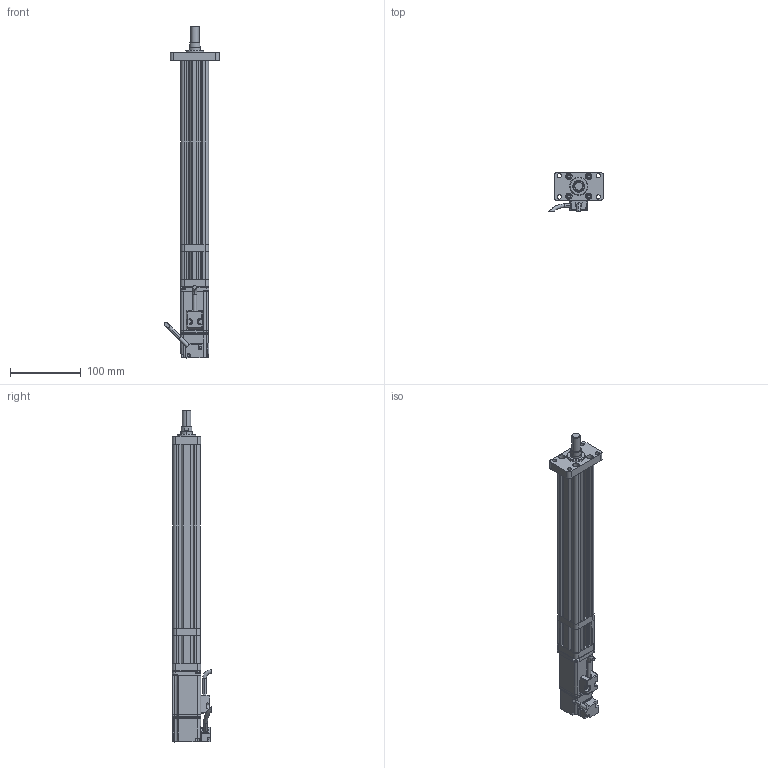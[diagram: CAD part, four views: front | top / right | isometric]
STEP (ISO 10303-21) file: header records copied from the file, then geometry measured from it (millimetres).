
FILE_DESCRIPTION (( 'STEP AP214' ), '1' );
FILE_NAME ('039-S200-D02-A-M3-C1-2.STEP', '2021-03-02T05:26:23', ( '' ), ( '' ), 'SwSTEP 2.0', 'SolidWorks 2018', '' );
FILE_SCHEMA (( 'AUTOMOTIVE_DESIGN' ));
Length unit declared in the file: millimetre
Products named in the file (8): CMC039-DT; CMC039-AZB; ECMA-CX0401ES-40框號系列機種-100W低慣量系列; CMC039-DJZ; CMC039-FL1; CMC039-GT; 039-S200-D02-A-M3-C1-2; CMC039-ZLLJB
Assembly tree (7 placements, depth 2):
  039-S200-D02-A-M3-C1-2
    CMC039-GT
    CMC039-DT
    CMC039-ZLLJB
    CMC039-DJZ
    ECMA-CX0401ES-40框號系列機種-100W低慣量系列
    CMC039-AZB
    CMC039-FL1
Bounding box: 77.83 x 55.39 x 469.6 mm (x, y, z)
Volume: 483346.4 mm3; surface area: 152102.9 mm2
Topology: 7 solids, 15 shells, 716 faces, 1884 edges, 1183 vertices
Faces by surface type: cylinder 298, plane 293, bspline 84, cone 41
Entity records: 28264 total; most frequent: CARTESIAN_POINT 11275, ORIENTED_EDGE 3702, DIRECTION 3045, EDGE_CURVE 1851, VERTEX_POINT 1183, AXIS2_PLACEMENT_3D 1040, LINE 965, VECTOR 965
